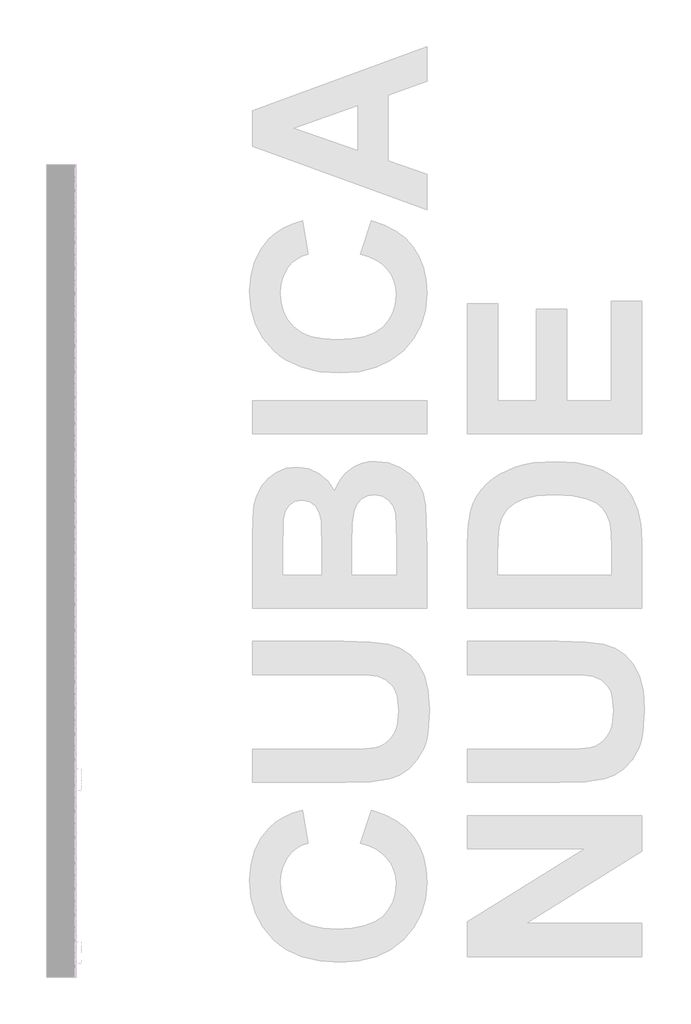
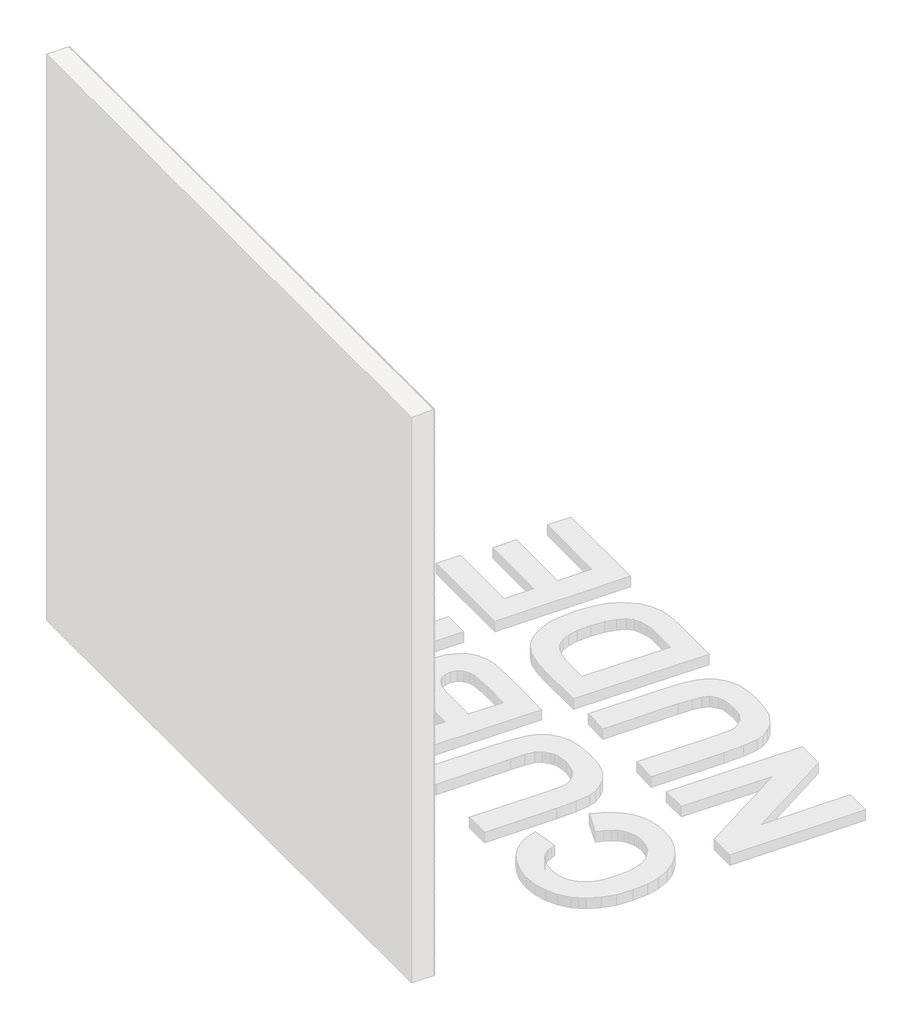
# One storey, part 70 of 121: 145 proxies.
"""IFC4 building model written with IfcOpenShell, lengths in millimetres."""

from ifc_helpers import new_model, si_unit, origin, place, context, project, spatial, transform, mapped, element, save
from components import generic_models_b2b2c5c1, generic_models_9bf73f6f, generic_models_5d175859

model = new_model("IFC4")

# Units and contexts
model_context = context("Model", 3, world=origin())
ifc_project = project(units=[si_unit("LENGTHUNIT", "METRE", prefix="MILLI")], contexts=[model_context])

# Site, building, storey
site = spatial("IfcSite", under=ifc_project)
building = spatial("IfcBuilding", under=site)
storey = spatial("IfcBuildingStorey", under=building, Name="PORTOBELLO - SHOWROOM", Elevation=0.0)

# Proxies
placement = place(None, origin())
generic_models_shape = generic_models_b2b2c5c1(model_context)
element("IfcBuildingElementProxy", 1, Name="PBSHOP - CUBICA NUDE 4,8X8,3 : CUBICA NUDE - POSIÇÃO 01", ObjectType="PBSHOP - CUBICA NUDE 4,8X8,3 : CUBICA NUDE - POSIÇÃO 01", at=placement, inside=storey, context=model_context, shape_type="MappedRepresentation", body=[
    mapped(generic_models_shape, transform((150369.5341846, 8077.0742266, 2170.6574029), x_axis=(0.0, 1.0, 0.0), y_axis=(0.0, 0.0, 1.0), z_axis=(1.0, 0.0, 0.0))),
])
element("IfcBuildingElementProxy", 2, Name="PBSHOP - CUBICA NUDE 4,8X8,3 : CUBICA NUDE - POSIÇÃO 01", ObjectType="PBSHOP - CUBICA NUDE 4,8X8,3 : CUBICA NUDE - POSIÇÃO 01", at=placement, inside=storey, context=model_context, shape_type="MappedRepresentation", body=[
    mapped(generic_models_shape, transform((150369.5341846, 8167.9134958, 2170.6574029), x_axis=(0.0, 1.0, 0.0), y_axis=(0.0, 0.0, 1.0), z_axis=(1.0, 0.0, 0.0))),
])
element("IfcBuildingElementProxy", 3, Name="PBSHOP - CUBICA NUDE 4,8X8,3 : CUBICA NUDE - POSIÇÃO 01", ObjectType="PBSHOP - CUBICA NUDE 4,8X8,3 : CUBICA NUDE - POSIÇÃO 01", at=placement, inside=storey, context=model_context, shape_type="MappedRepresentation", body=[
    mapped(generic_models_shape, transform((150369.5341846, 8258.7527651, 2170.6574029), x_axis=(0.0, 1.0, 0.0), y_axis=(0.0, 0.0, 1.0), z_axis=(1.0, 0.0, 0.0))),
])
element("IfcBuildingElementProxy", 4, Name="PBSHOP - CUBICA NUDE 4,8X8,3 : CUBICA NUDE - POSIÇÃO 01", ObjectType="PBSHOP - CUBICA NUDE 4,8X8,3 : CUBICA NUDE - POSIÇÃO 01", at=placement, inside=storey, context=model_context, shape_type="MappedRepresentation", body=[
    mapped(generic_models_shape, transform((150369.5341846, 8349.5920343, 2170.6574029), x_axis=(0.0, 1.0, 0.0), y_axis=(0.0, 0.0, 1.0), z_axis=(1.0, 0.0, 0.0))),
])
element("IfcBuildingElementProxy", 5, Name="PBSHOP - CUBICA NUDE 4,8X8,3 : CUBICA NUDE - POSIÇÃO 01", ObjectType="PBSHOP - CUBICA NUDE 4,8X8,3 : CUBICA NUDE - POSIÇÃO 01", at=placement, inside=storey, context=model_context, shape_type="MappedRepresentation", body=[
    mapped(generic_models_shape, transform((150369.5341846, 8440.4313036, 2170.6574029), x_axis=(0.0, 1.0, 0.0), y_axis=(0.0, 0.0, 1.0), z_axis=(1.0, 0.0, 0.0))),
])
element("IfcBuildingElementProxy", 6, Name="PBSHOP - CUBICA NUDE 4,8X8,3 : CUBICA NUDE - POSIÇÃO 01", ObjectType="PBSHOP - CUBICA NUDE 4,8X8,3 : CUBICA NUDE - POSIÇÃO 01", at=placement, inside=storey, context=model_context, shape_type="MappedRepresentation", body=[
    mapped(generic_models_shape, transform((150369.5341846, 8531.2705728, 2170.6574029), x_axis=(0.0, 1.0, 0.0), y_axis=(0.0, 0.0, 1.0), z_axis=(1.0, 0.0, 0.0))),
])
element("IfcBuildingElementProxy", 7, Name="PBSHOP - CUBICA NUDE 4,8X8,3 : CUBICA NUDE - POSIÇÃO 01", ObjectType="PBSHOP - CUBICA NUDE 4,8X8,3 : CUBICA NUDE - POSIÇÃO 01", at=placement, inside=storey, context=model_context, shape_type="MappedRepresentation", body=[
    mapped(generic_models_shape, transform((150369.5341846, 8622.109842, 2170.6574029), x_axis=(0.0, 1.0, 0.0), y_axis=(0.0, 0.0, 1.0), z_axis=(1.0, 0.0, 0.0))),
])
element("IfcBuildingElementProxy", 8, Name="PBSHOP - CUBICA NUDE 4,8X8,3 : CUBICA NUDE - POSIÇÃO 01", ObjectType="PBSHOP - CUBICA NUDE 4,8X8,3 : CUBICA NUDE - POSIÇÃO 01", at=placement, inside=storey, context=model_context, shape_type="MappedRepresentation", body=[
    mapped(generic_models_shape, transform((150369.5341846, 8712.9491113, 2170.6574029), x_axis=(0.0, 1.0, 0.0), y_axis=(0.0, 0.0, 1.0), z_axis=(1.0, 0.0, 0.0))),
])
element("IfcBuildingElementProxy", 9, Name="PBSHOP - CUBICA NUDE 4,8X8,3 : CUBICA NUDE - POSIÇÃO 01", ObjectType="PBSHOP - CUBICA NUDE 4,8X8,3 : CUBICA NUDE - POSIÇÃO 01", at=placement, inside=storey, context=model_context, shape_type="MappedRepresentation", body=[
    mapped(generic_models_shape, transform((150369.5341846, 8803.7883805, 2170.6574029), x_axis=(0.0, 1.0, 0.0), y_axis=(0.0, 0.0, 1.0), z_axis=(1.0, 0.0, 0.0))),
])
element("IfcBuildingElementProxy", 10, Name="PBSHOP - CUBICA NUDE 4,8X8,3 : CUBICA NUDE - POSIÇÃO 01", ObjectType="PBSHOP - CUBICA NUDE 4,8X8,3 : CUBICA NUDE - POSIÇÃO 01", at=placement, inside=storey, context=model_context, shape_type="MappedRepresentation", body=[
    mapped(generic_models_shape, transform((150369.5341846, 8894.6276498, 2170.6574029), x_axis=(0.0, 1.0, 0.0), y_axis=(0.0, 0.0, 1.0), z_axis=(1.0, 0.0, 0.0))),
])
element("IfcBuildingElementProxy", 11, Name="PBSHOP - CUBICA NUDE 4,8X8,3 : CUBICA NUDE - POSIÇÃO 01", ObjectType="PBSHOP - CUBICA NUDE 4,8X8,3 : CUBICA NUDE - POSIÇÃO 01", at=placement, inside=storey, context=model_context, shape_type="MappedRepresentation", body=[
    mapped(generic_models_shape, transform((150369.5341846, 8985.466919, 2170.6574029), x_axis=(0.0, 1.0, 0.0), y_axis=(0.0, 0.0, 1.0), z_axis=(1.0, 0.0, 0.0))),
])
element("IfcBuildingElementProxy", 12, Name="PBSHOP - CUBICA NUDE 4,8X8,3 : CUBICA NUDE - POSIÇÃO 01", ObjectType="PBSHOP - CUBICA NUDE 4,8X8,3 : CUBICA NUDE - POSIÇÃO 01", at=placement, inside=storey, context=model_context, shape_type="MappedRepresentation", body=[
    mapped(generic_models_shape, transform((150369.5341846, 8031.654592, 2249.5920413), x_axis=(0.0, 1.0, 0.0), y_axis=(0.0, 0.0, 1.0), z_axis=(1.0, 0.0, 0.0))),
])
element("IfcBuildingElementProxy", 13, Name="PBSHOP - CUBICA NUDE 4,8X8,3 : CUBICA NUDE - POSIÇÃO 01", ObjectType="PBSHOP - CUBICA NUDE 4,8X8,3 : CUBICA NUDE - POSIÇÃO 01", at=placement, inside=storey, context=model_context, shape_type="MappedRepresentation", body=[
    mapped(generic_models_shape, transform((150369.5341846, 8122.4938612, 2249.5920413), x_axis=(0.0, 1.0, 0.0), y_axis=(0.0, 0.0, 1.0), z_axis=(1.0, 0.0, 0.0))),
])
element("IfcBuildingElementProxy", 14, Name="PBSHOP - CUBICA NUDE 4,8X8,3 : CUBICA NUDE - POSIÇÃO 01", ObjectType="PBSHOP - CUBICA NUDE 4,8X8,3 : CUBICA NUDE - POSIÇÃO 01", at=placement, inside=storey, context=model_context, shape_type="MappedRepresentation", body=[
    mapped(generic_models_shape, transform((150369.5341846, 8213.3331304, 2249.5920413), x_axis=(0.0, 1.0, 0.0), y_axis=(0.0, 0.0, 1.0), z_axis=(1.0, 0.0, 0.0))),
])
element("IfcBuildingElementProxy", 15, Name="PBSHOP - CUBICA NUDE 4,8X8,3 : CUBICA NUDE - POSIÇÃO 01", ObjectType="PBSHOP - CUBICA NUDE 4,8X8,3 : CUBICA NUDE - POSIÇÃO 01", at=placement, inside=storey, context=model_context, shape_type="MappedRepresentation", body=[
    mapped(generic_models_shape, transform((150369.5341846, 8304.1723997, 2249.5920413), x_axis=(0.0, 1.0, 0.0), y_axis=(0.0, 0.0, 1.0), z_axis=(1.0, 0.0, 0.0))),
])
element("IfcBuildingElementProxy", 16, Name="PBSHOP - CUBICA NUDE 4,8X8,3 : CUBICA NUDE - POSIÇÃO 01", ObjectType="PBSHOP - CUBICA NUDE 4,8X8,3 : CUBICA NUDE - POSIÇÃO 01", at=placement, inside=storey, context=model_context, shape_type="MappedRepresentation", body=[
    mapped(generic_models_shape, transform((150369.5341846, 8395.0116689, 2249.5920413), x_axis=(0.0, 1.0, 0.0), y_axis=(0.0, 0.0, 1.0), z_axis=(1.0, 0.0, 0.0))),
])
element("IfcBuildingElementProxy", 17, Name="PBSHOP - CUBICA NUDE 4,8X8,3 : CUBICA NUDE - POSIÇÃO 01", ObjectType="PBSHOP - CUBICA NUDE 4,8X8,3 : CUBICA NUDE - POSIÇÃO 01", at=placement, inside=storey, context=model_context, shape_type="MappedRepresentation", body=[
    mapped(generic_models_shape, transform((150369.5341846, 8485.8509382, 2249.5920413), x_axis=(0.0, 1.0, 0.0), y_axis=(0.0, 0.0, 1.0), z_axis=(1.0, 0.0, 0.0))),
])
element("IfcBuildingElementProxy", 18, Name="PBSHOP - CUBICA NUDE 4,8X8,3 : CUBICA NUDE - POSIÇÃO 01", ObjectType="PBSHOP - CUBICA NUDE 4,8X8,3 : CUBICA NUDE - POSIÇÃO 01", at=placement, inside=storey, context=model_context, shape_type="MappedRepresentation", body=[
    mapped(generic_models_shape, transform((150369.5341846, 8576.6902074, 2249.5920413), x_axis=(0.0, 1.0, 0.0), y_axis=(0.0, 0.0, 1.0), z_axis=(1.0, 0.0, 0.0))),
])
element("IfcBuildingElementProxy", 19, Name="PBSHOP - CUBICA NUDE 4,8X8,3 : CUBICA NUDE - POSIÇÃO 01", ObjectType="PBSHOP - CUBICA NUDE 4,8X8,3 : CUBICA NUDE - POSIÇÃO 01", at=placement, inside=storey, context=model_context, shape_type="MappedRepresentation", body=[
    mapped(generic_models_shape, transform((150369.5341846, 8667.5294767, 2249.5920413), x_axis=(0.0, 1.0, 0.0), y_axis=(0.0, 0.0, 1.0), z_axis=(1.0, 0.0, 0.0))),
])
element("IfcBuildingElementProxy", 20, Name="PBSHOP - CUBICA NUDE 4,8X8,3 : CUBICA NUDE - POSIÇÃO 01", ObjectType="PBSHOP - CUBICA NUDE 4,8X8,3 : CUBICA NUDE - POSIÇÃO 01", at=placement, inside=storey, context=model_context, shape_type="MappedRepresentation", body=[
    mapped(generic_models_shape, transform((150369.5341846, 8758.3687459, 2249.5920413), x_axis=(0.0, 1.0, 0.0), y_axis=(0.0, 0.0, 1.0), z_axis=(1.0, 0.0, 0.0))),
])
element("IfcBuildingElementProxy", 21, Name="PBSHOP - CUBICA NUDE 4,8X8,3 : CUBICA NUDE - POSIÇÃO 01", ObjectType="PBSHOP - CUBICA NUDE 4,8X8,3 : CUBICA NUDE - POSIÇÃO 01", at=placement, inside=storey, context=model_context, shape_type="MappedRepresentation", body=[
    mapped(generic_models_shape, transform((150369.5341846, 8849.2080152, 2249.5920413), x_axis=(0.0, 1.0, 0.0), y_axis=(0.0, 0.0, 1.0), z_axis=(1.0, 0.0, 0.0))),
])
element("IfcBuildingElementProxy", 22, Name="PBSHOP - CUBICA NUDE 4,8X8,3 : CUBICA NUDE - POSIÇÃO 01", ObjectType="PBSHOP - CUBICA NUDE 4,8X8,3 : CUBICA NUDE - POSIÇÃO 01", at=placement, inside=storey, context=model_context, shape_type="MappedRepresentation", body=[
    mapped(generic_models_shape, transform((150369.5341846, 8940.0472844, 2249.5920413), x_axis=(0.0, 1.0, 0.0), y_axis=(0.0, 0.0, 1.0), z_axis=(1.0, 0.0, 0.0))),
])
element("IfcBuildingElementProxy", 23, Name="PBSHOP - CUBICA NUDE 4,8X8,3 : CUBICA NUDE - POSIÇÃO 01", ObjectType="PBSHOP - CUBICA NUDE 4,8X8,3 : CUBICA NUDE - POSIÇÃO 01", at=placement, inside=storey, context=model_context, shape_type="MappedRepresentation", body=[
    mapped(generic_models_shape, transform((150369.5341846, 8077.0742266, 2328.5266797), x_axis=(0.0, 1.0, 0.0), y_axis=(0.0, 0.0, 1.0), z_axis=(1.0, 0.0, 0.0))),
])
element("IfcBuildingElementProxy", 24, Name="PBSHOP - CUBICA NUDE 4,8X8,3 : CUBICA NUDE - POSIÇÃO 01", ObjectType="PBSHOP - CUBICA NUDE 4,8X8,3 : CUBICA NUDE - POSIÇÃO 01", at=placement, inside=storey, context=model_context, shape_type="MappedRepresentation", body=[
    mapped(generic_models_shape, transform((150369.5341846, 8167.9134958, 2328.5266797), x_axis=(0.0, 1.0, 0.0), y_axis=(0.0, 0.0, 1.0), z_axis=(1.0, 0.0, 0.0))),
])
element("IfcBuildingElementProxy", 25, Name="PBSHOP - CUBICA NUDE 4,8X8,3 : CUBICA NUDE - POSIÇÃO 01", ObjectType="PBSHOP - CUBICA NUDE 4,8X8,3 : CUBICA NUDE - POSIÇÃO 01", at=placement, inside=storey, context=model_context, shape_type="MappedRepresentation", body=[
    mapped(generic_models_shape, transform((150369.5341846, 8258.7527651, 2328.5266797), x_axis=(0.0, 1.0, 0.0), y_axis=(0.0, 0.0, 1.0), z_axis=(1.0, 0.0, 0.0))),
])
element("IfcBuildingElementProxy", 26, Name="PBSHOP - CUBICA NUDE 4,8X8,3 : CUBICA NUDE - POSIÇÃO 01", ObjectType="PBSHOP - CUBICA NUDE 4,8X8,3 : CUBICA NUDE - POSIÇÃO 01", at=placement, inside=storey, context=model_context, shape_type="MappedRepresentation", body=[
    mapped(generic_models_shape, transform((150369.5341846, 8349.5920343, 2328.5266797), x_axis=(0.0, 1.0, 0.0), y_axis=(0.0, 0.0, 1.0), z_axis=(1.0, 0.0, 0.0))),
])
element("IfcBuildingElementProxy", 27, Name="PBSHOP - CUBICA NUDE 4,8X8,3 : CUBICA NUDE - POSIÇÃO 01", ObjectType="PBSHOP - CUBICA NUDE 4,8X8,3 : CUBICA NUDE - POSIÇÃO 01", at=placement, inside=storey, context=model_context, shape_type="MappedRepresentation", body=[
    mapped(generic_models_shape, transform((150369.5341846, 8440.4313036, 2328.5266797), x_axis=(0.0, 1.0, 0.0), y_axis=(0.0, 0.0, 1.0), z_axis=(1.0, 0.0, 0.0))),
])
element("IfcBuildingElementProxy", 28, Name="PBSHOP - CUBICA NUDE 4,8X8,3 : CUBICA NUDE - POSIÇÃO 01", ObjectType="PBSHOP - CUBICA NUDE 4,8X8,3 : CUBICA NUDE - POSIÇÃO 01", at=placement, inside=storey, context=model_context, shape_type="MappedRepresentation", body=[
    mapped(generic_models_shape, transform((150369.5341846, 8531.2705728, 2328.5266797), x_axis=(0.0, 1.0, 0.0), y_axis=(0.0, 0.0, 1.0), z_axis=(1.0, 0.0, 0.0))),
])
element("IfcBuildingElementProxy", 29, Name="PBSHOP - CUBICA NUDE 4,8X8,3 : CUBICA NUDE - POSIÇÃO 01", ObjectType="PBSHOP - CUBICA NUDE 4,8X8,3 : CUBICA NUDE - POSIÇÃO 01", at=placement, inside=storey, context=model_context, shape_type="MappedRepresentation", body=[
    mapped(generic_models_shape, transform((150369.5341846, 8622.109842, 2328.5266797), x_axis=(0.0, 1.0, 0.0), y_axis=(0.0, 0.0, 1.0), z_axis=(1.0, 0.0, 0.0))),
])
element("IfcBuildingElementProxy", 30, Name="PBSHOP - CUBICA NUDE 4,8X8,3 : CUBICA NUDE - POSIÇÃO 01", ObjectType="PBSHOP - CUBICA NUDE 4,8X8,3 : CUBICA NUDE - POSIÇÃO 01", at=placement, inside=storey, context=model_context, shape_type="MappedRepresentation", body=[
    mapped(generic_models_shape, transform((150369.5341846, 8712.9491113, 2328.5266797), x_axis=(0.0, 1.0, 0.0), y_axis=(0.0, 0.0, 1.0), z_axis=(1.0, 0.0, 0.0))),
])
element("IfcBuildingElementProxy", 31, Name="PBSHOP - CUBICA NUDE 4,8X8,3 : CUBICA NUDE - POSIÇÃO 01", ObjectType="PBSHOP - CUBICA NUDE 4,8X8,3 : CUBICA NUDE - POSIÇÃO 01", at=placement, inside=storey, context=model_context, shape_type="MappedRepresentation", body=[
    mapped(generic_models_shape, transform((150369.5341846, 8803.7883805, 2328.5266797), x_axis=(0.0, 1.0, 0.0), y_axis=(0.0, 0.0, 1.0), z_axis=(1.0, 0.0, 0.0))),
])
element("IfcBuildingElementProxy", 32, Name="PBSHOP - CUBICA NUDE 4,8X8,3 : CUBICA NUDE - POSIÇÃO 01", ObjectType="PBSHOP - CUBICA NUDE 4,8X8,3 : CUBICA NUDE - POSIÇÃO 01", at=placement, inside=storey, context=model_context, shape_type="MappedRepresentation", body=[
    mapped(generic_models_shape, transform((150369.5341846, 8894.6276498, 2328.5266797), x_axis=(0.0, 1.0, 0.0), y_axis=(0.0, 0.0, 1.0), z_axis=(1.0, 0.0, 0.0))),
])
element("IfcBuildingElementProxy", 33, Name="PBSHOP - CUBICA NUDE 4,8X8,3 : CUBICA NUDE - POSIÇÃO 01", ObjectType="PBSHOP - CUBICA NUDE 4,8X8,3 : CUBICA NUDE - POSIÇÃO 01", at=placement, inside=storey, context=model_context, shape_type="MappedRepresentation", body=[
    mapped(generic_models_shape, transform((150369.5341846, 8985.466919, 2328.5266797), x_axis=(0.0, 1.0, 0.0), y_axis=(0.0, 0.0, 1.0), z_axis=(1.0, 0.0, 0.0))),
])
element("IfcBuildingElementProxy", 34, Name="PBSHOP - CUBICA NUDE 4,8X8,3 : CUBICA NUDE - POSIÇÃO 01", ObjectType="PBSHOP - CUBICA NUDE 4,8X8,3 : CUBICA NUDE - POSIÇÃO 01", at=placement, inside=storey, context=model_context, shape_type="MappedRepresentation", body=[
    mapped(generic_models_shape, transform((150369.5341846, 8031.654592, 2407.461318), x_axis=(0.0, 1.0, 0.0), y_axis=(0.0, 0.0, 1.0), z_axis=(1.0, 0.0, 0.0))),
])
element("IfcBuildingElementProxy", 35, Name="PBSHOP - CUBICA NUDE 4,8X8,3 : CUBICA NUDE - POSIÇÃO 01", ObjectType="PBSHOP - CUBICA NUDE 4,8X8,3 : CUBICA NUDE - POSIÇÃO 01", at=placement, inside=storey, context=model_context, shape_type="MappedRepresentation", body=[
    mapped(generic_models_shape, transform((150369.5341846, 8122.4938612, 2407.461318), x_axis=(0.0, 1.0, 0.0), y_axis=(0.0, 0.0, 1.0), z_axis=(1.0, 0.0, 0.0))),
])
element("IfcBuildingElementProxy", 36, Name="PBSHOP - CUBICA NUDE 4,8X8,3 : CUBICA NUDE - POSIÇÃO 01", ObjectType="PBSHOP - CUBICA NUDE 4,8X8,3 : CUBICA NUDE - POSIÇÃO 01", at=placement, inside=storey, context=model_context, shape_type="MappedRepresentation", body=[
    mapped(generic_models_shape, transform((150369.5341846, 8213.3331304, 2407.461318), x_axis=(0.0, 1.0, 0.0), y_axis=(0.0, 0.0, 1.0), z_axis=(1.0, 0.0, 0.0))),
])
element("IfcBuildingElementProxy", 37, Name="PBSHOP - CUBICA NUDE 4,8X8,3 : CUBICA NUDE - POSIÇÃO 01", ObjectType="PBSHOP - CUBICA NUDE 4,8X8,3 : CUBICA NUDE - POSIÇÃO 01", at=placement, inside=storey, context=model_context, shape_type="MappedRepresentation", body=[
    mapped(generic_models_shape, transform((150369.5341846, 8304.1723997, 2407.461318), x_axis=(0.0, 1.0, 0.0), y_axis=(0.0, 0.0, 1.0), z_axis=(1.0, 0.0, 0.0))),
])
element("IfcBuildingElementProxy", 38, Name="PBSHOP - CUBICA NUDE 4,8X8,3 : CUBICA NUDE - POSIÇÃO 01", ObjectType="PBSHOP - CUBICA NUDE 4,8X8,3 : CUBICA NUDE - POSIÇÃO 01", at=placement, inside=storey, context=model_context, shape_type="MappedRepresentation", body=[
    mapped(generic_models_shape, transform((150369.5341846, 8395.0116689, 2407.461318), x_axis=(0.0, 1.0, 0.0), y_axis=(0.0, 0.0, 1.0), z_axis=(1.0, 0.0, 0.0))),
])
element("IfcBuildingElementProxy", 39, Name="PBSHOP - CUBICA NUDE 4,8X8,3 : CUBICA NUDE - POSIÇÃO 01", ObjectType="PBSHOP - CUBICA NUDE 4,8X8,3 : CUBICA NUDE - POSIÇÃO 01", at=placement, inside=storey, context=model_context, shape_type="MappedRepresentation", body=[
    mapped(generic_models_shape, transform((150369.5341846, 8485.8509382, 2407.461318), x_axis=(0.0, 1.0, 0.0), y_axis=(0.0, 0.0, 1.0), z_axis=(1.0, 0.0, 0.0))),
])
element("IfcBuildingElementProxy", 40, Name="PBSHOP - CUBICA NUDE 4,8X8,3 : CUBICA NUDE - POSIÇÃO 01", ObjectType="PBSHOP - CUBICA NUDE 4,8X8,3 : CUBICA NUDE - POSIÇÃO 01", at=placement, inside=storey, context=model_context, shape_type="MappedRepresentation", body=[
    mapped(generic_models_shape, transform((150369.5341846, 8576.6902074, 2407.461318), x_axis=(0.0, 1.0, 0.0), y_axis=(0.0, 0.0, 1.0), z_axis=(1.0, 0.0, 0.0))),
])
element("IfcBuildingElementProxy", 41, Name="PBSHOP - CUBICA NUDE 4,8X8,3 : CUBICA NUDE - POSIÇÃO 01", ObjectType="PBSHOP - CUBICA NUDE 4,8X8,3 : CUBICA NUDE - POSIÇÃO 01", at=placement, inside=storey, context=model_context, shape_type="MappedRepresentation", body=[
    mapped(generic_models_shape, transform((150369.5341846, 8667.5294767, 2407.461318), x_axis=(0.0, 1.0, 0.0), y_axis=(0.0, 0.0, 1.0), z_axis=(1.0, 0.0, 0.0))),
])
element("IfcBuildingElementProxy", 42, Name="PBSHOP - CUBICA NUDE 4,8X8,3 : CUBICA NUDE - POSIÇÃO 01", ObjectType="PBSHOP - CUBICA NUDE 4,8X8,3 : CUBICA NUDE - POSIÇÃO 01", at=placement, inside=storey, context=model_context, shape_type="MappedRepresentation", body=[
    mapped(generic_models_shape, transform((150369.5341846, 8758.3687459, 2407.461318), x_axis=(0.0, 1.0, 0.0), y_axis=(0.0, 0.0, 1.0), z_axis=(1.0, 0.0, 0.0))),
])
element("IfcBuildingElementProxy", 43, Name="PBSHOP - CUBICA NUDE 4,8X8,3 : CUBICA NUDE - POSIÇÃO 01", ObjectType="PBSHOP - CUBICA NUDE 4,8X8,3 : CUBICA NUDE - POSIÇÃO 01", at=placement, inside=storey, context=model_context, shape_type="MappedRepresentation", body=[
    mapped(generic_models_shape, transform((150369.5341846, 8849.2080152, 2407.461318), x_axis=(0.0, 1.0, 0.0), y_axis=(0.0, 0.0, 1.0), z_axis=(1.0, 0.0, 0.0))),
])
element("IfcBuildingElementProxy", 44, Name="PBSHOP - CUBICA NUDE 4,8X8,3 : CUBICA NUDE - POSIÇÃO 01", ObjectType="PBSHOP - CUBICA NUDE 4,8X8,3 : CUBICA NUDE - POSIÇÃO 01", at=placement, inside=storey, context=model_context, shape_type="MappedRepresentation", body=[
    mapped(generic_models_shape, transform((150369.5341846, 8940.0472844, 2407.461318), x_axis=(0.0, 1.0, 0.0), y_axis=(0.0, 0.0, 1.0), z_axis=(1.0, 0.0, 0.0))),
])
element("IfcBuildingElementProxy", 45, Name="PBSHOP - CUBICA NUDE 4,8X8,3 : CUBICA NUDE - POSIÇÃO 01", ObjectType="PBSHOP - CUBICA NUDE 4,8X8,3 : CUBICA NUDE - POSIÇÃO 01", at=placement, inside=storey, context=model_context, shape_type="MappedRepresentation", body=[
    mapped(generic_models_shape, transform((150369.5341846, 8077.0742266, 2486.3959564), x_axis=(0.0, 1.0, 0.0), y_axis=(0.0, 0.0, 1.0), z_axis=(1.0, 0.0, 0.0))),
])
element("IfcBuildingElementProxy", 46, Name="PBSHOP - CUBICA NUDE 4,8X8,3 : CUBICA NUDE - POSIÇÃO 01", ObjectType="PBSHOP - CUBICA NUDE 4,8X8,3 : CUBICA NUDE - POSIÇÃO 01", at=placement, inside=storey, context=model_context, shape_type="MappedRepresentation", body=[
    mapped(generic_models_shape, transform((150369.5341846, 8167.9134958, 2486.3959564), x_axis=(0.0, 1.0, 0.0), y_axis=(0.0, 0.0, 1.0), z_axis=(1.0, 0.0, 0.0))),
])
element("IfcBuildingElementProxy", 47, Name="PBSHOP - CUBICA NUDE 4,8X8,3 : CUBICA NUDE - POSIÇÃO 01", ObjectType="PBSHOP - CUBICA NUDE 4,8X8,3 : CUBICA NUDE - POSIÇÃO 01", at=placement, inside=storey, context=model_context, shape_type="MappedRepresentation", body=[
    mapped(generic_models_shape, transform((150369.5341846, 8258.7527651, 2486.3959564), x_axis=(0.0, 1.0, 0.0), y_axis=(0.0, 0.0, 1.0), z_axis=(1.0, 0.0, 0.0))),
])
element("IfcBuildingElementProxy", 48, Name="PBSHOP - CUBICA NUDE 4,8X8,3 : CUBICA NUDE - POSIÇÃO 01", ObjectType="PBSHOP - CUBICA NUDE 4,8X8,3 : CUBICA NUDE - POSIÇÃO 01", at=placement, inside=storey, context=model_context, shape_type="MappedRepresentation", body=[
    mapped(generic_models_shape, transform((150369.5341846, 8349.5920343, 2486.3959564), x_axis=(0.0, 1.0, 0.0), y_axis=(0.0, 0.0, 1.0), z_axis=(1.0, 0.0, 0.0))),
])
element("IfcBuildingElementProxy", 49, Name="PBSHOP - CUBICA NUDE 4,8X8,3 : CUBICA NUDE - POSIÇÃO 01", ObjectType="PBSHOP - CUBICA NUDE 4,8X8,3 : CUBICA NUDE - POSIÇÃO 01", at=placement, inside=storey, context=model_context, shape_type="MappedRepresentation", body=[
    mapped(generic_models_shape, transform((150369.5341846, 8440.4313036, 2486.3959564), x_axis=(0.0, 1.0, 0.0), y_axis=(0.0, 0.0, 1.0), z_axis=(1.0, 0.0, 0.0))),
])
element("IfcBuildingElementProxy", 50, Name="PBSHOP - CUBICA NUDE 4,8X8,3 : CUBICA NUDE - POSIÇÃO 01", ObjectType="PBSHOP - CUBICA NUDE 4,8X8,3 : CUBICA NUDE - POSIÇÃO 01", at=placement, inside=storey, context=model_context, shape_type="MappedRepresentation", body=[
    mapped(generic_models_shape, transform((150369.5341846, 8531.2705728, 2486.3959564), x_axis=(0.0, 1.0, 0.0), y_axis=(0.0, 0.0, 1.0), z_axis=(1.0, 0.0, 0.0))),
])
generic_models_2_shape = generic_models_9bf73f6f(model_context)
element("IfcBuildingElementProxy", 51, Name="PBSHOP - CUBICA NUDE 4,8X8,3 : CUBICA NUDE - POSIÇÃO 03", ObjectType="PBSHOP - CUBICA NUDE 4,8X8,3 : CUBICA NUDE - POSIÇÃO 03", at=placement, inside=storey, context=model_context, shape_type="MappedRepresentation", body=[
    mapped(generic_models_2_shape, transform((150369.5341846, 8917.3396263, 2052.2142349), x_axis=(0.0, 1.0, 0.0), y_axis=(0.0, 0.0, 1.0), z_axis=(1.0, 0.0, 0.0))),
])
element("IfcBuildingElementProxy", 52, Name="PBSHOP - CUBICA NUDE 4,8X8,3 : CUBICA NUDE - POSIÇÃO 03", ObjectType="PBSHOP - CUBICA NUDE 4,8X8,3 : CUBICA NUDE - POSIÇÃO 03", at=placement, inside=storey, context=model_context, shape_type="MappedRepresentation", body=[
    mapped(generic_models_2_shape, transform((150369.5341846, 8054.3665684, 2131.1488733), x_axis=(0.0, 1.0, 0.0), y_axis=(0.0, 0.0, 1.0), z_axis=(1.0, 0.0, 0.0))),
])
element("IfcBuildingElementProxy", 53, Name="PBSHOP - CUBICA NUDE 4,8X8,3 : CUBICA NUDE - POSIÇÃO 03", ObjectType="PBSHOP - CUBICA NUDE 4,8X8,3 : CUBICA NUDE - POSIÇÃO 03", at=placement, inside=storey, context=model_context, shape_type="MappedRepresentation", body=[
    mapped(generic_models_2_shape, transform((150369.5341846, 8145.2058377, 2131.1488733), x_axis=(0.0, 1.0, 0.0), y_axis=(0.0, 0.0, 1.0), z_axis=(1.0, 0.0, 0.0))),
])
element("IfcBuildingElementProxy", 54, Name="PBSHOP - CUBICA NUDE 4,8X8,3 : CUBICA NUDE - POSIÇÃO 03", ObjectType="PBSHOP - CUBICA NUDE 4,8X8,3 : CUBICA NUDE - POSIÇÃO 03", at=placement, inside=storey, context=model_context, shape_type="MappedRepresentation", body=[
    mapped(generic_models_2_shape, transform((150369.5341846, 8236.0451069, 2131.1488733), x_axis=(0.0, 1.0, 0.0), y_axis=(0.0, 0.0, 1.0), z_axis=(1.0, 0.0, 0.0))),
])
element("IfcBuildingElementProxy", 55, Name="PBSHOP - CUBICA NUDE 4,8X8,3 : CUBICA NUDE - POSIÇÃO 03", ObjectType="PBSHOP - CUBICA NUDE 4,8X8,3 : CUBICA NUDE - POSIÇÃO 03", at=placement, inside=storey, context=model_context, shape_type="MappedRepresentation", body=[
    mapped(generic_models_2_shape, transform((150369.5341846, 8326.8843762, 2131.1488733), x_axis=(0.0, 1.0, 0.0), y_axis=(0.0, 0.0, 1.0), z_axis=(1.0, 0.0, 0.0))),
])
element("IfcBuildingElementProxy", 56, Name="PBSHOP - CUBICA NUDE 4,8X8,3 : CUBICA NUDE - POSIÇÃO 03", ObjectType="PBSHOP - CUBICA NUDE 4,8X8,3 : CUBICA NUDE - POSIÇÃO 03", at=placement, inside=storey, context=model_context, shape_type="MappedRepresentation", body=[
    mapped(generic_models_2_shape, transform((150369.5341846, 8417.7236454, 2131.1488733), x_axis=(0.0, 1.0, 0.0), y_axis=(0.0, 0.0, 1.0), z_axis=(1.0, 0.0, 0.0))),
])
element("IfcBuildingElementProxy", 57, Name="PBSHOP - CUBICA NUDE 4,8X8,3 : CUBICA NUDE - POSIÇÃO 03", ObjectType="PBSHOP - CUBICA NUDE 4,8X8,3 : CUBICA NUDE - POSIÇÃO 03", at=placement, inside=storey, context=model_context, shape_type="MappedRepresentation", body=[
    mapped(generic_models_2_shape, transform((150369.5341846, 8508.5629147, 2131.1488733), x_axis=(0.0, 1.0, 0.0), y_axis=(0.0, 0.0, 1.0), z_axis=(1.0, 0.0, 0.0))),
])
element("IfcBuildingElementProxy", 58, Name="PBSHOP - CUBICA NUDE 4,8X8,3 : CUBICA NUDE - POSIÇÃO 03", ObjectType="PBSHOP - CUBICA NUDE 4,8X8,3 : CUBICA NUDE - POSIÇÃO 03", at=placement, inside=storey, context=model_context, shape_type="MappedRepresentation", body=[
    mapped(generic_models_2_shape, transform((150369.5341846, 8599.4021839, 2131.1488733), x_axis=(0.0, 1.0, 0.0), y_axis=(0.0, 0.0, 1.0), z_axis=(1.0, 0.0, 0.0))),
])
element("IfcBuildingElementProxy", 59, Name="PBSHOP - CUBICA NUDE 4,8X8,3 : CUBICA NUDE - POSIÇÃO 03", ObjectType="PBSHOP - CUBICA NUDE 4,8X8,3 : CUBICA NUDE - POSIÇÃO 03", at=placement, inside=storey, context=model_context, shape_type="MappedRepresentation", body=[
    mapped(generic_models_2_shape, transform((150369.5341846, 8690.2414531, 2131.1488733), x_axis=(0.0, 1.0, 0.0), y_axis=(0.0, 0.0, 1.0), z_axis=(1.0, 0.0, 0.0))),
])
element("IfcBuildingElementProxy", 60, Name="PBSHOP - CUBICA NUDE 4,8X8,3 : CUBICA NUDE - POSIÇÃO 03", ObjectType="PBSHOP - CUBICA NUDE 4,8X8,3 : CUBICA NUDE - POSIÇÃO 03", at=placement, inside=storey, context=model_context, shape_type="MappedRepresentation", body=[
    mapped(generic_models_2_shape, transform((150369.5341846, 8781.0807224, 2131.1488733), x_axis=(0.0, 1.0, 0.0), y_axis=(0.0, 0.0, 1.0), z_axis=(1.0, 0.0, 0.0))),
])
element("IfcBuildingElementProxy", 61, Name="PBSHOP - CUBICA NUDE 4,8X8,3 : CUBICA NUDE - POSIÇÃO 03", ObjectType="PBSHOP - CUBICA NUDE 4,8X8,3 : CUBICA NUDE - POSIÇÃO 03", at=placement, inside=storey, context=model_context, shape_type="MappedRepresentation", body=[
    mapped(generic_models_2_shape, transform((150369.5341846, 8871.9199916, 2131.1488733), x_axis=(0.0, 1.0, 0.0), y_axis=(0.0, 0.0, 1.0), z_axis=(1.0, 0.0, 0.0))),
])
element("IfcBuildingElementProxy", 62, Name="PBSHOP - CUBICA NUDE 4,8X8,3 : CUBICA NUDE - POSIÇÃO 03", ObjectType="PBSHOP - CUBICA NUDE 4,8X8,3 : CUBICA NUDE - POSIÇÃO 03", at=placement, inside=storey, context=model_context, shape_type="MappedRepresentation", body=[
    mapped(generic_models_2_shape, transform((150369.5341846, 8962.7592609, 2131.1488733), x_axis=(0.0, 1.0, 0.0), y_axis=(0.0, 0.0, 1.0), z_axis=(1.0, 0.0, 0.0))),
])
element("IfcBuildingElementProxy", 63, Name="PBSHOP - CUBICA NUDE 4,8X8,3 : CUBICA NUDE - POSIÇÃO 03", ObjectType="PBSHOP - CUBICA NUDE 4,8X8,3 : CUBICA NUDE - POSIÇÃO 03", at=placement, inside=storey, context=model_context, shape_type="MappedRepresentation", body=[
    mapped(generic_models_2_shape, transform((150369.5341846, 8008.9469338, 2210.0835117), x_axis=(0.0, 1.0, 0.0), y_axis=(0.0, 0.0, 1.0), z_axis=(1.0, 0.0, 0.0))),
])
element("IfcBuildingElementProxy", 64, Name="PBSHOP - CUBICA NUDE 4,8X8,3 : CUBICA NUDE - POSIÇÃO 03", ObjectType="PBSHOP - CUBICA NUDE 4,8X8,3 : CUBICA NUDE - POSIÇÃO 03", at=placement, inside=storey, context=model_context, shape_type="MappedRepresentation", body=[
    mapped(generic_models_2_shape, transform((150369.5341846, 8099.7862031, 2210.0835117), x_axis=(0.0, 1.0, 0.0), y_axis=(0.0, 0.0, 1.0), z_axis=(1.0, 0.0, 0.0))),
])
element("IfcBuildingElementProxy", 65, Name="PBSHOP - CUBICA NUDE 4,8X8,3 : CUBICA NUDE - POSIÇÃO 03", ObjectType="PBSHOP - CUBICA NUDE 4,8X8,3 : CUBICA NUDE - POSIÇÃO 03", at=placement, inside=storey, context=model_context, shape_type="MappedRepresentation", body=[
    mapped(generic_models_2_shape, transform((150369.5341846, 8190.6254723, 2210.0835117), x_axis=(0.0, 1.0, 0.0), y_axis=(0.0, 0.0, 1.0), z_axis=(1.0, 0.0, 0.0))),
])
element("IfcBuildingElementProxy", 66, Name="PBSHOP - CUBICA NUDE 4,8X8,3 : CUBICA NUDE - POSIÇÃO 03", ObjectType="PBSHOP - CUBICA NUDE 4,8X8,3 : CUBICA NUDE - POSIÇÃO 03", at=placement, inside=storey, context=model_context, shape_type="MappedRepresentation", body=[
    mapped(generic_models_2_shape, transform((150369.5341846, 8281.4647415, 2210.0835117), x_axis=(0.0, 1.0, 0.0), y_axis=(0.0, 0.0, 1.0), z_axis=(1.0, 0.0, 0.0))),
])
element("IfcBuildingElementProxy", 67, Name="PBSHOP - CUBICA NUDE 4,8X8,3 : CUBICA NUDE - POSIÇÃO 03", ObjectType="PBSHOP - CUBICA NUDE 4,8X8,3 : CUBICA NUDE - POSIÇÃO 03", at=placement, inside=storey, context=model_context, shape_type="MappedRepresentation", body=[
    mapped(generic_models_2_shape, transform((150369.5341846, 8372.3040108, 2210.0835117), x_axis=(0.0, 1.0, 0.0), y_axis=(0.0, 0.0, 1.0), z_axis=(1.0, 0.0, 0.0))),
])
element("IfcBuildingElementProxy", 68, Name="PBSHOP - CUBICA NUDE 4,8X8,3 : CUBICA NUDE - POSIÇÃO 03", ObjectType="PBSHOP - CUBICA NUDE 4,8X8,3 : CUBICA NUDE - POSIÇÃO 03", at=placement, inside=storey, context=model_context, shape_type="MappedRepresentation", body=[
    mapped(generic_models_2_shape, transform((150369.5341846, 8463.14328, 2210.0835117), x_axis=(0.0, 1.0, 0.0), y_axis=(0.0, 0.0, 1.0), z_axis=(1.0, 0.0, 0.0))),
])
element("IfcBuildingElementProxy", 69, Name="PBSHOP - CUBICA NUDE 4,8X8,3 : CUBICA NUDE - POSIÇÃO 03", ObjectType="PBSHOP - CUBICA NUDE 4,8X8,3 : CUBICA NUDE - POSIÇÃO 03", at=placement, inside=storey, context=model_context, shape_type="MappedRepresentation", body=[
    mapped(generic_models_2_shape, transform((150369.5341846, 8553.9825493, 2210.0835117), x_axis=(0.0, 1.0, 0.0), y_axis=(0.0, 0.0, 1.0), z_axis=(1.0, 0.0, 0.0))),
])
element("IfcBuildingElementProxy", 70, Name="PBSHOP - CUBICA NUDE 4,8X8,3 : CUBICA NUDE - POSIÇÃO 03", ObjectType="PBSHOP - CUBICA NUDE 4,8X8,3 : CUBICA NUDE - POSIÇÃO 03", at=placement, inside=storey, context=model_context, shape_type="MappedRepresentation", body=[
    mapped(generic_models_2_shape, transform((150369.5341846, 8644.8218185, 2210.0835117), x_axis=(0.0, 1.0, 0.0), y_axis=(0.0, 0.0, 1.0), z_axis=(1.0, 0.0, 0.0))),
])
element("IfcBuildingElementProxy", 71, Name="PBSHOP - CUBICA NUDE 4,8X8,3 : CUBICA NUDE - POSIÇÃO 03", ObjectType="PBSHOP - CUBICA NUDE 4,8X8,3 : CUBICA NUDE - POSIÇÃO 03", at=placement, inside=storey, context=model_context, shape_type="MappedRepresentation", body=[
    mapped(generic_models_2_shape, transform((150369.5341846, 8735.6610878, 2210.0835117), x_axis=(0.0, 1.0, 0.0), y_axis=(0.0, 0.0, 1.0), z_axis=(1.0, 0.0, 0.0))),
])
element("IfcBuildingElementProxy", 72, Name="PBSHOP - CUBICA NUDE 4,8X8,3 : CUBICA NUDE - POSIÇÃO 03", ObjectType="PBSHOP - CUBICA NUDE 4,8X8,3 : CUBICA NUDE - POSIÇÃO 03", at=placement, inside=storey, context=model_context, shape_type="MappedRepresentation", body=[
    mapped(generic_models_2_shape, transform((150369.5341846, 8826.500357, 2210.0835117), x_axis=(0.0, 1.0, 0.0), y_axis=(0.0, 0.0, 1.0), z_axis=(1.0, 0.0, 0.0))),
])
element("IfcBuildingElementProxy", 73, Name="PBSHOP - CUBICA NUDE 4,8X8,3 : CUBICA NUDE - POSIÇÃO 03", ObjectType="PBSHOP - CUBICA NUDE 4,8X8,3 : CUBICA NUDE - POSIÇÃO 03", at=placement, inside=storey, context=model_context, shape_type="MappedRepresentation", body=[
    mapped(generic_models_2_shape, transform((150369.5341846, 8917.3396263, 2210.0835117), x_axis=(0.0, 1.0, 0.0), y_axis=(0.0, 0.0, 1.0), z_axis=(1.0, 0.0, 0.0))),
])
element("IfcBuildingElementProxy", 74, Name="PBSHOP - CUBICA NUDE 4,8X8,3 : CUBICA NUDE - POSIÇÃO 03", ObjectType="PBSHOP - CUBICA NUDE 4,8X8,3 : CUBICA NUDE - POSIÇÃO 03", at=placement, inside=storey, context=model_context, shape_type="MappedRepresentation", body=[
    mapped(generic_models_2_shape, transform((150369.5341846, 8054.3665684, 2289.0181501), x_axis=(0.0, 1.0, 0.0), y_axis=(0.0, 0.0, 1.0), z_axis=(1.0, 0.0, 0.0))),
])
element("IfcBuildingElementProxy", 75, Name="PBSHOP - CUBICA NUDE 4,8X8,3 : CUBICA NUDE - POSIÇÃO 03", ObjectType="PBSHOP - CUBICA NUDE 4,8X8,3 : CUBICA NUDE - POSIÇÃO 03", at=placement, inside=storey, context=model_context, shape_type="MappedRepresentation", body=[
    mapped(generic_models_2_shape, transform((150369.5341846, 8145.2058377, 2289.0181501), x_axis=(0.0, 1.0, 0.0), y_axis=(0.0, 0.0, 1.0), z_axis=(1.0, 0.0, 0.0))),
])
element("IfcBuildingElementProxy", 76, Name="PBSHOP - CUBICA NUDE 4,8X8,3 : CUBICA NUDE - POSIÇÃO 03", ObjectType="PBSHOP - CUBICA NUDE 4,8X8,3 : CUBICA NUDE - POSIÇÃO 03", at=placement, inside=storey, context=model_context, shape_type="MappedRepresentation", body=[
    mapped(generic_models_2_shape, transform((150369.5341846, 8236.0451069, 2289.0181501), x_axis=(0.0, 1.0, 0.0), y_axis=(0.0, 0.0, 1.0), z_axis=(1.0, 0.0, 0.0))),
])
element("IfcBuildingElementProxy", 77, Name="PBSHOP - CUBICA NUDE 4,8X8,3 : CUBICA NUDE - POSIÇÃO 03", ObjectType="PBSHOP - CUBICA NUDE 4,8X8,3 : CUBICA NUDE - POSIÇÃO 03", at=placement, inside=storey, context=model_context, shape_type="MappedRepresentation", body=[
    mapped(generic_models_2_shape, transform((150369.5341846, 8326.8843762, 2289.0181501), x_axis=(0.0, 1.0, 0.0), y_axis=(0.0, 0.0, 1.0), z_axis=(1.0, 0.0, 0.0))),
])
element("IfcBuildingElementProxy", 78, Name="PBSHOP - CUBICA NUDE 4,8X8,3 : CUBICA NUDE - POSIÇÃO 03", ObjectType="PBSHOP - CUBICA NUDE 4,8X8,3 : CUBICA NUDE - POSIÇÃO 03", at=placement, inside=storey, context=model_context, shape_type="MappedRepresentation", body=[
    mapped(generic_models_2_shape, transform((150369.5341846, 8417.7236454, 2289.0181501), x_axis=(0.0, 1.0, 0.0), y_axis=(0.0, 0.0, 1.0), z_axis=(1.0, 0.0, 0.0))),
])
element("IfcBuildingElementProxy", 79, Name="PBSHOP - CUBICA NUDE 4,8X8,3 : CUBICA NUDE - POSIÇÃO 03", ObjectType="PBSHOP - CUBICA NUDE 4,8X8,3 : CUBICA NUDE - POSIÇÃO 03", at=placement, inside=storey, context=model_context, shape_type="MappedRepresentation", body=[
    mapped(generic_models_2_shape, transform((150369.5341846, 8508.5629147, 2289.0181501), x_axis=(0.0, 1.0, 0.0), y_axis=(0.0, 0.0, 1.0), z_axis=(1.0, 0.0, 0.0))),
])
element("IfcBuildingElementProxy", 80, Name="PBSHOP - CUBICA NUDE 4,8X8,3 : CUBICA NUDE - POSIÇÃO 03", ObjectType="PBSHOP - CUBICA NUDE 4,8X8,3 : CUBICA NUDE - POSIÇÃO 03", at=placement, inside=storey, context=model_context, shape_type="MappedRepresentation", body=[
    mapped(generic_models_2_shape, transform((150369.5341846, 8599.4021839, 2289.0181501), x_axis=(0.0, 1.0, 0.0), y_axis=(0.0, 0.0, 1.0), z_axis=(1.0, 0.0, 0.0))),
])
element("IfcBuildingElementProxy", 81, Name="PBSHOP - CUBICA NUDE 4,8X8,3 : CUBICA NUDE - POSIÇÃO 03", ObjectType="PBSHOP - CUBICA NUDE 4,8X8,3 : CUBICA NUDE - POSIÇÃO 03", at=placement, inside=storey, context=model_context, shape_type="MappedRepresentation", body=[
    mapped(generic_models_2_shape, transform((150369.5341846, 8690.2414531, 2289.0181501), x_axis=(0.0, 1.0, 0.0), y_axis=(0.0, 0.0, 1.0), z_axis=(1.0, 0.0, 0.0))),
])
element("IfcBuildingElementProxy", 82, Name="PBSHOP - CUBICA NUDE 4,8X8,3 : CUBICA NUDE - POSIÇÃO 03", ObjectType="PBSHOP - CUBICA NUDE 4,8X8,3 : CUBICA NUDE - POSIÇÃO 03", at=placement, inside=storey, context=model_context, shape_type="MappedRepresentation", body=[
    mapped(generic_models_2_shape, transform((150369.5341846, 8781.0807224, 2289.0181501), x_axis=(0.0, 1.0, 0.0), y_axis=(0.0, 0.0, 1.0), z_axis=(1.0, 0.0, 0.0))),
])
element("IfcBuildingElementProxy", 83, Name="PBSHOP - CUBICA NUDE 4,8X8,3 : CUBICA NUDE - POSIÇÃO 03", ObjectType="PBSHOP - CUBICA NUDE 4,8X8,3 : CUBICA NUDE - POSIÇÃO 03", at=placement, inside=storey, context=model_context, shape_type="MappedRepresentation", body=[
    mapped(generic_models_2_shape, transform((150369.5341846, 8871.9199916, 2289.0181501), x_axis=(0.0, 1.0, 0.0), y_axis=(0.0, 0.0, 1.0), z_axis=(1.0, 0.0, 0.0))),
])
element("IfcBuildingElementProxy", 84, Name="PBSHOP - CUBICA NUDE 4,8X8,3 : CUBICA NUDE - POSIÇÃO 03", ObjectType="PBSHOP - CUBICA NUDE 4,8X8,3 : CUBICA NUDE - POSIÇÃO 03", at=placement, inside=storey, context=model_context, shape_type="MappedRepresentation", body=[
    mapped(generic_models_2_shape, transform((150369.5341846, 8962.7592609, 2289.0181501), x_axis=(0.0, 1.0, 0.0), y_axis=(0.0, 0.0, 1.0), z_axis=(1.0, 0.0, 0.0))),
])
element("IfcBuildingElementProxy", 85, Name="PBSHOP - CUBICA NUDE 4,8X8,3 : CUBICA NUDE - POSIÇÃO 03", ObjectType="PBSHOP - CUBICA NUDE 4,8X8,3 : CUBICA NUDE - POSIÇÃO 03", at=placement, inside=storey, context=model_context, shape_type="MappedRepresentation", body=[
    mapped(generic_models_2_shape, transform((150369.5341846, 8008.9469338, 2367.9527884), x_axis=(0.0, 1.0, 0.0), y_axis=(0.0, 0.0, 1.0), z_axis=(1.0, 0.0, 0.0))),
])
element("IfcBuildingElementProxy", 86, Name="PBSHOP - CUBICA NUDE 4,8X8,3 : CUBICA NUDE - POSIÇÃO 03", ObjectType="PBSHOP - CUBICA NUDE 4,8X8,3 : CUBICA NUDE - POSIÇÃO 03", at=placement, inside=storey, context=model_context, shape_type="MappedRepresentation", body=[
    mapped(generic_models_2_shape, transform((150369.5341846, 8099.7862031, 2367.9527884), x_axis=(0.0, 1.0, 0.0), y_axis=(0.0, 0.0, 1.0), z_axis=(1.0, 0.0, 0.0))),
])
element("IfcBuildingElementProxy", 87, Name="PBSHOP - CUBICA NUDE 4,8X8,3 : CUBICA NUDE - POSIÇÃO 03", ObjectType="PBSHOP - CUBICA NUDE 4,8X8,3 : CUBICA NUDE - POSIÇÃO 03", at=placement, inside=storey, context=model_context, shape_type="MappedRepresentation", body=[
    mapped(generic_models_2_shape, transform((150369.5341846, 8190.6254723, 2367.9527884), x_axis=(0.0, 1.0, 0.0), y_axis=(0.0, 0.0, 1.0), z_axis=(1.0, 0.0, 0.0))),
])
element("IfcBuildingElementProxy", 88, Name="PBSHOP - CUBICA NUDE 4,8X8,3 : CUBICA NUDE - POSIÇÃO 03", ObjectType="PBSHOP - CUBICA NUDE 4,8X8,3 : CUBICA NUDE - POSIÇÃO 03", at=placement, inside=storey, context=model_context, shape_type="MappedRepresentation", body=[
    mapped(generic_models_2_shape, transform((150369.5341846, 8281.4647415, 2367.9527884), x_axis=(0.0, 1.0, 0.0), y_axis=(0.0, 0.0, 1.0), z_axis=(1.0, 0.0, 0.0))),
])
element("IfcBuildingElementProxy", 89, Name="PBSHOP - CUBICA NUDE 4,8X8,3 : CUBICA NUDE - POSIÇÃO 03", ObjectType="PBSHOP - CUBICA NUDE 4,8X8,3 : CUBICA NUDE - POSIÇÃO 03", at=placement, inside=storey, context=model_context, shape_type="MappedRepresentation", body=[
    mapped(generic_models_2_shape, transform((150369.5341846, 8372.3040108, 2367.9527884), x_axis=(0.0, 1.0, 0.0), y_axis=(0.0, 0.0, 1.0), z_axis=(1.0, 0.0, 0.0))),
])
element("IfcBuildingElementProxy", 90, Name="PBSHOP - CUBICA NUDE 4,8X8,3 : CUBICA NUDE - POSIÇÃO 03", ObjectType="PBSHOP - CUBICA NUDE 4,8X8,3 : CUBICA NUDE - POSIÇÃO 03", at=placement, inside=storey, context=model_context, shape_type="MappedRepresentation", body=[
    mapped(generic_models_2_shape, transform((150369.5341846, 8463.14328, 2367.9527884), x_axis=(0.0, 1.0, 0.0), y_axis=(0.0, 0.0, 1.0), z_axis=(1.0, 0.0, 0.0))),
])
element("IfcBuildingElementProxy", 91, Name="PBSHOP - CUBICA NUDE 4,8X8,3 : CUBICA NUDE - POSIÇÃO 03", ObjectType="PBSHOP - CUBICA NUDE 4,8X8,3 : CUBICA NUDE - POSIÇÃO 03", at=placement, inside=storey, context=model_context, shape_type="MappedRepresentation", body=[
    mapped(generic_models_2_shape, transform((150369.5341846, 8553.9825493, 2367.9527884), x_axis=(0.0, 1.0, 0.0), y_axis=(0.0, 0.0, 1.0), z_axis=(1.0, 0.0, 0.0))),
])
element("IfcBuildingElementProxy", 92, Name="PBSHOP - CUBICA NUDE 4,8X8,3 : CUBICA NUDE - POSIÇÃO 03", ObjectType="PBSHOP - CUBICA NUDE 4,8X8,3 : CUBICA NUDE - POSIÇÃO 03", at=placement, inside=storey, context=model_context, shape_type="MappedRepresentation", body=[
    mapped(generic_models_2_shape, transform((150369.5341846, 8644.8218185, 2367.9527884), x_axis=(0.0, 1.0, 0.0), y_axis=(0.0, 0.0, 1.0), z_axis=(1.0, 0.0, 0.0))),
])
element("IfcBuildingElementProxy", 93, Name="PBSHOP - CUBICA NUDE 4,8X8,3 : CUBICA NUDE - POSIÇÃO 03", ObjectType="PBSHOP - CUBICA NUDE 4,8X8,3 : CUBICA NUDE - POSIÇÃO 03", at=placement, inside=storey, context=model_context, shape_type="MappedRepresentation", body=[
    mapped(generic_models_2_shape, transform((150369.5341846, 8735.6610878, 2367.9527884), x_axis=(0.0, 1.0, 0.0), y_axis=(0.0, 0.0, 1.0), z_axis=(1.0, 0.0, 0.0))),
])
element("IfcBuildingElementProxy", 94, Name="PBSHOP - CUBICA NUDE 4,8X8,3 : CUBICA NUDE - POSIÇÃO 03", ObjectType="PBSHOP - CUBICA NUDE 4,8X8,3 : CUBICA NUDE - POSIÇÃO 03", at=placement, inside=storey, context=model_context, shape_type="MappedRepresentation", body=[
    mapped(generic_models_2_shape, transform((150369.5341846, 8826.500357, 2367.9527884), x_axis=(0.0, 1.0, 0.0), y_axis=(0.0, 0.0, 1.0), z_axis=(1.0, 0.0, 0.0))),
])
element("IfcBuildingElementProxy", 95, Name="PBSHOP - CUBICA NUDE 4,8X8,3 : CUBICA NUDE - POSIÇÃO 03", ObjectType="PBSHOP - CUBICA NUDE 4,8X8,3 : CUBICA NUDE - POSIÇÃO 03", at=placement, inside=storey, context=model_context, shape_type="MappedRepresentation", body=[
    mapped(generic_models_2_shape, transform((150369.5341846, 8917.3396263, 2367.9527884), x_axis=(0.0, 1.0, 0.0), y_axis=(0.0, 0.0, 1.0), z_axis=(1.0, 0.0, 0.0))),
])
generic_models_3_shape = generic_models_5d175859(model_context)
element("IfcBuildingElementProxy", 96, Name="PBSHOP - CUBICA NUDE 4,8X8,3 : CUBICA NUDE - POSIÇÃO 01", ObjectType="PBSHOP - CUBICA NUDE 4,8X8,3 : CUBICA NUDE - POSIÇÃO 01", at=placement, inside=storey, context=model_context, shape_type="MappedRepresentation", body=[
    mapped(generic_models_3_shape, transform((150369.5341846, 8031.6589103, 2170.6574029), x_axis=(0.0, -1.0, 0.0), y_axis=(0.0, 0.0, -1.0), z_axis=(1.0, 0.0, 0.0))),
])
element("IfcBuildingElementProxy", 97, Name="PBSHOP - CUBICA NUDE 4,8X8,3 : CUBICA NUDE - POSIÇÃO 01", ObjectType="PBSHOP - CUBICA NUDE 4,8X8,3 : CUBICA NUDE - POSIÇÃO 01", at=placement, inside=storey, context=model_context, shape_type="MappedRepresentation", body=[
    mapped(generic_models_3_shape, transform((150369.5341846, 8122.4981795, 2170.6574029), x_axis=(0.0, -1.0, 0.0), y_axis=(0.0, 0.0, -1.0), z_axis=(1.0, 0.0, 0.0))),
])
element("IfcBuildingElementProxy", 98, Name="PBSHOP - CUBICA NUDE 4,8X8,3 : CUBICA NUDE - POSIÇÃO 01", ObjectType="PBSHOP - CUBICA NUDE 4,8X8,3 : CUBICA NUDE - POSIÇÃO 01", at=placement, inside=storey, context=model_context, shape_type="MappedRepresentation", body=[
    mapped(generic_models_3_shape, transform((150369.5341846, 8213.3374488, 2170.6574029), x_axis=(0.0, -1.0, 0.0), y_axis=(0.0, 0.0, -1.0), z_axis=(1.0, 0.0, 0.0))),
])
element("IfcBuildingElementProxy", 99, Name="PBSHOP - CUBICA NUDE 4,8X8,3 : CUBICA NUDE - POSIÇÃO 01", ObjectType="PBSHOP - CUBICA NUDE 4,8X8,3 : CUBICA NUDE - POSIÇÃO 01", at=placement, inside=storey, context=model_context, shape_type="MappedRepresentation", body=[
    mapped(generic_models_3_shape, transform((150369.5341846, 8304.176718, 2170.6574029), x_axis=(0.0, -1.0, 0.0), y_axis=(0.0, 0.0, -1.0), z_axis=(1.0, 0.0, 0.0))),
])
element("IfcBuildingElementProxy", 100, Name="PBSHOP - CUBICA NUDE 4,8X8,3 : CUBICA NUDE - POSIÇÃO 01", ObjectType="PBSHOP - CUBICA NUDE 4,8X8,3 : CUBICA NUDE - POSIÇÃO 01", at=placement, inside=storey, context=model_context, shape_type="MappedRepresentation", body=[
    mapped(generic_models_3_shape, transform((150369.5341846, 8395.0159873, 2170.6574029), x_axis=(0.0, -1.0, 0.0), y_axis=(0.0, 0.0, -1.0), z_axis=(1.0, 0.0, 0.0))),
])
element("IfcBuildingElementProxy", 101, Name="PBSHOP - CUBICA NUDE 4,8X8,3 : CUBICA NUDE - POSIÇÃO 01", ObjectType="PBSHOP - CUBICA NUDE 4,8X8,3 : CUBICA NUDE - POSIÇÃO 01", at=placement, inside=storey, context=model_context, shape_type="MappedRepresentation", body=[
    mapped(generic_models_3_shape, transform((150369.5341846, 8485.8552565, 2170.6574029), x_axis=(0.0, -1.0, 0.0), y_axis=(0.0, 0.0, -1.0), z_axis=(1.0, 0.0, 0.0))),
])
element("IfcBuildingElementProxy", 102, Name="PBSHOP - CUBICA NUDE 4,8X8,3 : CUBICA NUDE - POSIÇÃO 01", ObjectType="PBSHOP - CUBICA NUDE 4,8X8,3 : CUBICA NUDE - POSIÇÃO 01", at=placement, inside=storey, context=model_context, shape_type="MappedRepresentation", body=[
    mapped(generic_models_3_shape, transform((150369.5341846, 8576.6945258, 2170.6574029), x_axis=(0.0, -1.0, 0.0), y_axis=(0.0, 0.0, -1.0), z_axis=(1.0, 0.0, 0.0))),
])
element("IfcBuildingElementProxy", 103, Name="PBSHOP - CUBICA NUDE 4,8X8,3 : CUBICA NUDE - POSIÇÃO 01", ObjectType="PBSHOP - CUBICA NUDE 4,8X8,3 : CUBICA NUDE - POSIÇÃO 01", at=placement, inside=storey, context=model_context, shape_type="MappedRepresentation", body=[
    mapped(generic_models_3_shape, transform((150369.5341846, 8667.533795, 2170.6574029), x_axis=(0.0, -1.0, 0.0), y_axis=(0.0, 0.0, -1.0), z_axis=(1.0, 0.0, 0.0))),
])
element("IfcBuildingElementProxy", 104, Name="PBSHOP - CUBICA NUDE 4,8X8,3 : CUBICA NUDE - POSIÇÃO 01", ObjectType="PBSHOP - CUBICA NUDE 4,8X8,3 : CUBICA NUDE - POSIÇÃO 01", at=placement, inside=storey, context=model_context, shape_type="MappedRepresentation", body=[
    mapped(generic_models_3_shape, transform((150369.5341846, 8758.3730642, 2170.6574029), x_axis=(0.0, -1.0, 0.0), y_axis=(0.0, 0.0, -1.0), z_axis=(1.0, 0.0, 0.0))),
])
element("IfcBuildingElementProxy", 105, Name="PBSHOP - CUBICA NUDE 4,8X8,3 : CUBICA NUDE - POSIÇÃO 01", ObjectType="PBSHOP - CUBICA NUDE 4,8X8,3 : CUBICA NUDE - POSIÇÃO 01", at=placement, inside=storey, context=model_context, shape_type="MappedRepresentation", body=[
    mapped(generic_models_3_shape, transform((150369.5341846, 8849.2123335, 2170.6574029), x_axis=(0.0, -1.0, 0.0), y_axis=(0.0, 0.0, -1.0), z_axis=(1.0, 0.0, 0.0))),
])
element("IfcBuildingElementProxy", 106, Name="PBSHOP - CUBICA NUDE 4,8X8,3 : CUBICA NUDE - POSIÇÃO 01", ObjectType="PBSHOP - CUBICA NUDE 4,8X8,3 : CUBICA NUDE - POSIÇÃO 01", at=placement, inside=storey, context=model_context, shape_type="MappedRepresentation", body=[
    mapped(generic_models_3_shape, transform((150369.5341846, 8940.0516027, 2170.6574029), x_axis=(0.0, -1.0, 0.0), y_axis=(0.0, 0.0, -1.0), z_axis=(1.0, 0.0, 0.0))),
])
element("IfcBuildingElementProxy", 107, Name="PBSHOP - CUBICA NUDE 4,8X8,3 : CUBICA NUDE - POSIÇÃO 01", ObjectType="PBSHOP - CUBICA NUDE 4,8X8,3 : CUBICA NUDE - POSIÇÃO 01", at=placement, inside=storey, context=model_context, shape_type="MappedRepresentation", body=[
    mapped(generic_models_3_shape, transform((150369.5341846, 8077.0785449, 2249.5920413), x_axis=(0.0, -1.0, 0.0), y_axis=(0.0, 0.0, -1.0), z_axis=(1.0, 0.0, 0.0))),
])
element("IfcBuildingElementProxy", 108, Name="PBSHOP - CUBICA NUDE 4,8X8,3 : CUBICA NUDE - POSIÇÃO 01", ObjectType="PBSHOP - CUBICA NUDE 4,8X8,3 : CUBICA NUDE - POSIÇÃO 01", at=placement, inside=storey, context=model_context, shape_type="MappedRepresentation", body=[
    mapped(generic_models_3_shape, transform((150369.5341846, 8167.9178142, 2249.5920413), x_axis=(0.0, -1.0, 0.0), y_axis=(0.0, 0.0, -1.0), z_axis=(1.0, 0.0, 0.0))),
])
element("IfcBuildingElementProxy", 109, Name="PBSHOP - CUBICA NUDE 4,8X8,3 : CUBICA NUDE - POSIÇÃO 01", ObjectType="PBSHOP - CUBICA NUDE 4,8X8,3 : CUBICA NUDE - POSIÇÃO 01", at=placement, inside=storey, context=model_context, shape_type="MappedRepresentation", body=[
    mapped(generic_models_3_shape, transform((150369.5341846, 8258.7570834, 2249.5920413), x_axis=(0.0, -1.0, 0.0), y_axis=(0.0, 0.0, -1.0), z_axis=(1.0, 0.0, 0.0))),
])
element("IfcBuildingElementProxy", 110, Name="PBSHOP - CUBICA NUDE 4,8X8,3 : CUBICA NUDE - POSIÇÃO 01", ObjectType="PBSHOP - CUBICA NUDE 4,8X8,3 : CUBICA NUDE - POSIÇÃO 01", at=placement, inside=storey, context=model_context, shape_type="MappedRepresentation", body=[
    mapped(generic_models_3_shape, transform((150369.5341846, 8349.5963526, 2249.5920413), x_axis=(0.0, -1.0, 0.0), y_axis=(0.0, 0.0, -1.0), z_axis=(1.0, 0.0, 0.0))),
])
element("IfcBuildingElementProxy", 111, Name="PBSHOP - CUBICA NUDE 4,8X8,3 : CUBICA NUDE - POSIÇÃO 01", ObjectType="PBSHOP - CUBICA NUDE 4,8X8,3 : CUBICA NUDE - POSIÇÃO 01", at=placement, inside=storey, context=model_context, shape_type="MappedRepresentation", body=[
    mapped(generic_models_3_shape, transform((150369.5341846, 8440.4356219, 2249.5920413), x_axis=(0.0, -1.0, 0.0), y_axis=(0.0, 0.0, -1.0), z_axis=(1.0, 0.0, 0.0))),
])
element("IfcBuildingElementProxy", 112, Name="PBSHOP - CUBICA NUDE 4,8X8,3 : CUBICA NUDE - POSIÇÃO 01", ObjectType="PBSHOP - CUBICA NUDE 4,8X8,3 : CUBICA NUDE - POSIÇÃO 01", at=placement, inside=storey, context=model_context, shape_type="MappedRepresentation", body=[
    mapped(generic_models_3_shape, transform((150369.5341846, 8531.2748911, 2249.5920413), x_axis=(0.0, -1.0, 0.0), y_axis=(0.0, 0.0, -1.0), z_axis=(1.0, 0.0, 0.0))),
])
element("IfcBuildingElementProxy", 113, Name="PBSHOP - CUBICA NUDE 4,8X8,3 : CUBICA NUDE - POSIÇÃO 01", ObjectType="PBSHOP - CUBICA NUDE 4,8X8,3 : CUBICA NUDE - POSIÇÃO 01", at=placement, inside=storey, context=model_context, shape_type="MappedRepresentation", body=[
    mapped(generic_models_3_shape, transform((150369.5341846, 8622.1141604, 2249.5920413), x_axis=(0.0, -1.0, 0.0), y_axis=(0.0, 0.0, -1.0), z_axis=(1.0, 0.0, 0.0))),
])
element("IfcBuildingElementProxy", 114, Name="PBSHOP - CUBICA NUDE 4,8X8,3 : CUBICA NUDE - POSIÇÃO 01", ObjectType="PBSHOP - CUBICA NUDE 4,8X8,3 : CUBICA NUDE - POSIÇÃO 01", at=placement, inside=storey, context=model_context, shape_type="MappedRepresentation", body=[
    mapped(generic_models_3_shape, transform((150369.5341846, 8712.9534296, 2249.5920413), x_axis=(0.0, -1.0, 0.0), y_axis=(0.0, 0.0, -1.0), z_axis=(1.0, 0.0, 0.0))),
])
element("IfcBuildingElementProxy", 115, Name="PBSHOP - CUBICA NUDE 4,8X8,3 : CUBICA NUDE - POSIÇÃO 01", ObjectType="PBSHOP - CUBICA NUDE 4,8X8,3 : CUBICA NUDE - POSIÇÃO 01", at=placement, inside=storey, context=model_context, shape_type="MappedRepresentation", body=[
    mapped(generic_models_3_shape, transform((150369.5341846, 8803.7926989, 2249.5920413), x_axis=(0.0, -1.0, 0.0), y_axis=(0.0, 0.0, -1.0), z_axis=(1.0, 0.0, 0.0))),
])
element("IfcBuildingElementProxy", 116, Name="PBSHOP - CUBICA NUDE 4,8X8,3 : CUBICA NUDE - POSIÇÃO 01", ObjectType="PBSHOP - CUBICA NUDE 4,8X8,3 : CUBICA NUDE - POSIÇÃO 01", at=placement, inside=storey, context=model_context, shape_type="MappedRepresentation", body=[
    mapped(generic_models_3_shape, transform((150369.5341846, 8894.6319681, 2249.5920413), x_axis=(0.0, -1.0, 0.0), y_axis=(0.0, 0.0, -1.0), z_axis=(1.0, 0.0, 0.0))),
])
element("IfcBuildingElementProxy", 117, Name="PBSHOP - CUBICA NUDE 4,8X8,3 : CUBICA NUDE - POSIÇÃO 01", ObjectType="PBSHOP - CUBICA NUDE 4,8X8,3 : CUBICA NUDE - POSIÇÃO 01", at=placement, inside=storey, context=model_context, shape_type="MappedRepresentation", body=[
    mapped(generic_models_3_shape, transform((150369.5341846, 8985.4712374, 2249.5920413), x_axis=(0.0, -1.0, 0.0), y_axis=(0.0, 0.0, -1.0), z_axis=(1.0, 0.0, 0.0))),
])
element("IfcBuildingElementProxy", 118, Name="PBSHOP - CUBICA NUDE 4,8X8,3 : CUBICA NUDE - POSIÇÃO 01", ObjectType="PBSHOP - CUBICA NUDE 4,8X8,3 : CUBICA NUDE - POSIÇÃO 01", at=placement, inside=storey, context=model_context, shape_type="MappedRepresentation", body=[
    mapped(generic_models_3_shape, transform((150369.5341846, 8031.6589103, 2328.5266797), x_axis=(0.0, -1.0, 0.0), y_axis=(0.0, 0.0, -1.0), z_axis=(1.0, 0.0, 0.0))),
])
element("IfcBuildingElementProxy", 119, Name="PBSHOP - CUBICA NUDE 4,8X8,3 : CUBICA NUDE - POSIÇÃO 01", ObjectType="PBSHOP - CUBICA NUDE 4,8X8,3 : CUBICA NUDE - POSIÇÃO 01", at=placement, inside=storey, context=model_context, shape_type="MappedRepresentation", body=[
    mapped(generic_models_3_shape, transform((150369.5341846, 8122.4981795, 2328.5266797), x_axis=(0.0, -1.0, 0.0), y_axis=(0.0, 0.0, -1.0), z_axis=(1.0, 0.0, 0.0))),
])
element("IfcBuildingElementProxy", 120, Name="PBSHOP - CUBICA NUDE 4,8X8,3 : CUBICA NUDE - POSIÇÃO 01", ObjectType="PBSHOP - CUBICA NUDE 4,8X8,3 : CUBICA NUDE - POSIÇÃO 01", at=placement, inside=storey, context=model_context, shape_type="MappedRepresentation", body=[
    mapped(generic_models_3_shape, transform((150369.5341846, 8213.3374488, 2328.5266797), x_axis=(0.0, -1.0, 0.0), y_axis=(0.0, 0.0, -1.0), z_axis=(1.0, 0.0, 0.0))),
])
element("IfcBuildingElementProxy", 121, Name="PBSHOP - CUBICA NUDE 4,8X8,3 : CUBICA NUDE - POSIÇÃO 01", ObjectType="PBSHOP - CUBICA NUDE 4,8X8,3 : CUBICA NUDE - POSIÇÃO 01", at=placement, inside=storey, context=model_context, shape_type="MappedRepresentation", body=[
    mapped(generic_models_3_shape, transform((150369.5341846, 8304.176718, 2328.5266797), x_axis=(0.0, -1.0, 0.0), y_axis=(0.0, 0.0, -1.0), z_axis=(1.0, 0.0, 0.0))),
])
element("IfcBuildingElementProxy", 122, Name="PBSHOP - CUBICA NUDE 4,8X8,3 : CUBICA NUDE - POSIÇÃO 01", ObjectType="PBSHOP - CUBICA NUDE 4,8X8,3 : CUBICA NUDE - POSIÇÃO 01", at=placement, inside=storey, context=model_context, shape_type="MappedRepresentation", body=[
    mapped(generic_models_3_shape, transform((150369.5341846, 8395.0159873, 2328.5266797), x_axis=(0.0, -1.0, 0.0), y_axis=(0.0, 0.0, -1.0), z_axis=(1.0, 0.0, 0.0))),
])
element("IfcBuildingElementProxy", 123, Name="PBSHOP - CUBICA NUDE 4,8X8,3 : CUBICA NUDE - POSIÇÃO 01", ObjectType="PBSHOP - CUBICA NUDE 4,8X8,3 : CUBICA NUDE - POSIÇÃO 01", at=placement, inside=storey, context=model_context, shape_type="MappedRepresentation", body=[
    mapped(generic_models_3_shape, transform((150369.5341846, 8485.8552565, 2328.5266797), x_axis=(0.0, -1.0, 0.0), y_axis=(0.0, 0.0, -1.0), z_axis=(1.0, 0.0, 0.0))),
])
element("IfcBuildingElementProxy", 124, Name="PBSHOP - CUBICA NUDE 4,8X8,3 : CUBICA NUDE - POSIÇÃO 01", ObjectType="PBSHOP - CUBICA NUDE 4,8X8,3 : CUBICA NUDE - POSIÇÃO 01", at=placement, inside=storey, context=model_context, shape_type="MappedRepresentation", body=[
    mapped(generic_models_3_shape, transform((150369.5341846, 8576.6945258, 2328.5266797), x_axis=(0.0, -1.0, 0.0), y_axis=(0.0, 0.0, -1.0), z_axis=(1.0, 0.0, 0.0))),
])
element("IfcBuildingElementProxy", 125, Name="PBSHOP - CUBICA NUDE 4,8X8,3 : CUBICA NUDE - POSIÇÃO 01", ObjectType="PBSHOP - CUBICA NUDE 4,8X8,3 : CUBICA NUDE - POSIÇÃO 01", at=placement, inside=storey, context=model_context, shape_type="MappedRepresentation", body=[
    mapped(generic_models_3_shape, transform((150369.5341846, 8667.533795, 2328.5266797), x_axis=(0.0, -1.0, 0.0), y_axis=(0.0, 0.0, -1.0), z_axis=(1.0, 0.0, 0.0))),
])
element("IfcBuildingElementProxy", 126, Name="PBSHOP - CUBICA NUDE 4,8X8,3 : CUBICA NUDE - POSIÇÃO 01", ObjectType="PBSHOP - CUBICA NUDE 4,8X8,3 : CUBICA NUDE - POSIÇÃO 01", at=placement, inside=storey, context=model_context, shape_type="MappedRepresentation", body=[
    mapped(generic_models_3_shape, transform((150369.5341846, 8758.3730642, 2328.5266797), x_axis=(0.0, -1.0, 0.0), y_axis=(0.0, 0.0, -1.0), z_axis=(1.0, 0.0, 0.0))),
])
element("IfcBuildingElementProxy", 127, Name="PBSHOP - CUBICA NUDE 4,8X8,3 : CUBICA NUDE - POSIÇÃO 01", ObjectType="PBSHOP - CUBICA NUDE 4,8X8,3 : CUBICA NUDE - POSIÇÃO 01", at=placement, inside=storey, context=model_context, shape_type="MappedRepresentation", body=[
    mapped(generic_models_3_shape, transform((150369.5341846, 8849.2123335, 2328.5266797), x_axis=(0.0, -1.0, 0.0), y_axis=(0.0, 0.0, -1.0), z_axis=(1.0, 0.0, 0.0))),
])
element("IfcBuildingElementProxy", 128, Name="PBSHOP - CUBICA NUDE 4,8X8,3 : CUBICA NUDE - POSIÇÃO 01", ObjectType="PBSHOP - CUBICA NUDE 4,8X8,3 : CUBICA NUDE - POSIÇÃO 01", at=placement, inside=storey, context=model_context, shape_type="MappedRepresentation", body=[
    mapped(generic_models_3_shape, transform((150369.5341846, 8940.0516027, 2328.5266797), x_axis=(0.0, -1.0, 0.0), y_axis=(0.0, 0.0, -1.0), z_axis=(1.0, 0.0, 0.0))),
])
element("IfcBuildingElementProxy", 129, Name="PBSHOP - CUBICA NUDE 4,8X8,3 : CUBICA NUDE - POSIÇÃO 01", ObjectType="PBSHOP - CUBICA NUDE 4,8X8,3 : CUBICA NUDE - POSIÇÃO 01", at=placement, inside=storey, context=model_context, shape_type="MappedRepresentation", body=[
    mapped(generic_models_3_shape, transform((150369.5341846, 8077.0785449, 2407.461318), x_axis=(0.0, -1.0, 0.0), y_axis=(0.0, 0.0, -1.0), z_axis=(1.0, 0.0, 0.0))),
])
element("IfcBuildingElementProxy", 130, Name="PBSHOP - CUBICA NUDE 4,8X8,3 : CUBICA NUDE - POSIÇÃO 01", ObjectType="PBSHOP - CUBICA NUDE 4,8X8,3 : CUBICA NUDE - POSIÇÃO 01", at=placement, inside=storey, context=model_context, shape_type="MappedRepresentation", body=[
    mapped(generic_models_3_shape, transform((150369.5341846, 8167.9178142, 2407.461318), x_axis=(0.0, -1.0, 0.0), y_axis=(0.0, 0.0, -1.0), z_axis=(1.0, 0.0, 0.0))),
])
element("IfcBuildingElementProxy", 131, Name="PBSHOP - CUBICA NUDE 4,8X8,3 : CUBICA NUDE - POSIÇÃO 01", ObjectType="PBSHOP - CUBICA NUDE 4,8X8,3 : CUBICA NUDE - POSIÇÃO 01", at=placement, inside=storey, context=model_context, shape_type="MappedRepresentation", body=[
    mapped(generic_models_3_shape, transform((150369.5341846, 8258.7570834, 2407.461318), x_axis=(0.0, -1.0, 0.0), y_axis=(0.0, 0.0, -1.0), z_axis=(1.0, 0.0, 0.0))),
])
element("IfcBuildingElementProxy", 132, Name="PBSHOP - CUBICA NUDE 4,8X8,3 : CUBICA NUDE - POSIÇÃO 01", ObjectType="PBSHOP - CUBICA NUDE 4,8X8,3 : CUBICA NUDE - POSIÇÃO 01", at=placement, inside=storey, context=model_context, shape_type="MappedRepresentation", body=[
    mapped(generic_models_3_shape, transform((150369.5341846, 8349.5963526, 2407.461318), x_axis=(0.0, -1.0, 0.0), y_axis=(0.0, 0.0, -1.0), z_axis=(1.0, 0.0, 0.0))),
])
element("IfcBuildingElementProxy", 133, Name="PBSHOP - CUBICA NUDE 4,8X8,3 : CUBICA NUDE - POSIÇÃO 01", ObjectType="PBSHOP - CUBICA NUDE 4,8X8,3 : CUBICA NUDE - POSIÇÃO 01", at=placement, inside=storey, context=model_context, shape_type="MappedRepresentation", body=[
    mapped(generic_models_3_shape, transform((150369.5341846, 8440.4356219, 2407.461318), x_axis=(0.0, -1.0, 0.0), y_axis=(0.0, 0.0, -1.0), z_axis=(1.0, 0.0, 0.0))),
])
element("IfcBuildingElementProxy", 134, Name="PBSHOP - CUBICA NUDE 4,8X8,3 : CUBICA NUDE - POSIÇÃO 01", ObjectType="PBSHOP - CUBICA NUDE 4,8X8,3 : CUBICA NUDE - POSIÇÃO 01", at=placement, inside=storey, context=model_context, shape_type="MappedRepresentation", body=[
    mapped(generic_models_3_shape, transform((150369.5341846, 8531.2748911, 2407.461318), x_axis=(0.0, -1.0, 0.0), y_axis=(0.0, 0.0, -1.0), z_axis=(1.0, 0.0, 0.0))),
])
element("IfcBuildingElementProxy", 135, Name="PBSHOP - CUBICA NUDE 4,8X8,3 : CUBICA NUDE - POSIÇÃO 01", ObjectType="PBSHOP - CUBICA NUDE 4,8X8,3 : CUBICA NUDE - POSIÇÃO 01", at=placement, inside=storey, context=model_context, shape_type="MappedRepresentation", body=[
    mapped(generic_models_3_shape, transform((150369.5341846, 8622.1141604, 2407.461318), x_axis=(0.0, -1.0, 0.0), y_axis=(0.0, 0.0, -1.0), z_axis=(1.0, 0.0, 0.0))),
])
element("IfcBuildingElementProxy", 136, Name="PBSHOP - CUBICA NUDE 4,8X8,3 : CUBICA NUDE - POSIÇÃO 01", ObjectType="PBSHOP - CUBICA NUDE 4,8X8,3 : CUBICA NUDE - POSIÇÃO 01", at=placement, inside=storey, context=model_context, shape_type="MappedRepresentation", body=[
    mapped(generic_models_3_shape, transform((150369.5341846, 8712.9534296, 2407.461318), x_axis=(0.0, -1.0, 0.0), y_axis=(0.0, 0.0, -1.0), z_axis=(1.0, 0.0, 0.0))),
])
element("IfcBuildingElementProxy", 137, Name="PBSHOP - CUBICA NUDE 4,8X8,3 : CUBICA NUDE - POSIÇÃO 01", ObjectType="PBSHOP - CUBICA NUDE 4,8X8,3 : CUBICA NUDE - POSIÇÃO 01", at=placement, inside=storey, context=model_context, shape_type="MappedRepresentation", body=[
    mapped(generic_models_3_shape, transform((150369.5341846, 8803.7926989, 2407.461318), x_axis=(0.0, -1.0, 0.0), y_axis=(0.0, 0.0, -1.0), z_axis=(1.0, 0.0, 0.0))),
])
element("IfcBuildingElementProxy", 138, Name="PBSHOP - CUBICA NUDE 4,8X8,3 : CUBICA NUDE - POSIÇÃO 01", ObjectType="PBSHOP - CUBICA NUDE 4,8X8,3 : CUBICA NUDE - POSIÇÃO 01", at=placement, inside=storey, context=model_context, shape_type="MappedRepresentation", body=[
    mapped(generic_models_3_shape, transform((150369.5341846, 8894.6319681, 2407.461318), x_axis=(0.0, -1.0, 0.0), y_axis=(0.0, 0.0, -1.0), z_axis=(1.0, 0.0, 0.0))),
])
element("IfcBuildingElementProxy", 139, Name="PBSHOP - CUBICA NUDE 4,8X8,3 : CUBICA NUDE - POSIÇÃO 01", ObjectType="PBSHOP - CUBICA NUDE 4,8X8,3 : CUBICA NUDE - POSIÇÃO 01", at=placement, inside=storey, context=model_context, shape_type="MappedRepresentation", body=[
    mapped(generic_models_3_shape, transform((150369.5341846, 8985.4712374, 2407.461318), x_axis=(0.0, -1.0, 0.0), y_axis=(0.0, 0.0, -1.0), z_axis=(1.0, 0.0, 0.0))),
])
element("IfcBuildingElementProxy", 140, Name="PBSHOP - CUBICA NUDE 4,8X8,3 : CUBICA NUDE - POSIÇÃO 01", ObjectType="PBSHOP - CUBICA NUDE 4,8X8,3 : CUBICA NUDE - POSIÇÃO 01", at=placement, inside=storey, context=model_context, shape_type="MappedRepresentation", body=[
    mapped(generic_models_3_shape, transform((150369.5341846, 8031.6589103, 2486.3959564), x_axis=(0.0, -1.0, 0.0), y_axis=(0.0, 0.0, -1.0), z_axis=(1.0, 0.0, 0.0))),
])
element("IfcBuildingElementProxy", 141, Name="PBSHOP - CUBICA NUDE 4,8X8,3 : CUBICA NUDE - POSIÇÃO 01", ObjectType="PBSHOP - CUBICA NUDE 4,8X8,3 : CUBICA NUDE - POSIÇÃO 01", at=placement, inside=storey, context=model_context, shape_type="MappedRepresentation", body=[
    mapped(generic_models_3_shape, transform((150369.5341846, 8122.4981795, 2486.3959564), x_axis=(0.0, -1.0, 0.0), y_axis=(0.0, 0.0, -1.0), z_axis=(1.0, 0.0, 0.0))),
])
element("IfcBuildingElementProxy", 142, Name="PBSHOP - CUBICA NUDE 4,8X8,3 : CUBICA NUDE - POSIÇÃO 01", ObjectType="PBSHOP - CUBICA NUDE 4,8X8,3 : CUBICA NUDE - POSIÇÃO 01", at=placement, inside=storey, context=model_context, shape_type="MappedRepresentation", body=[
    mapped(generic_models_3_shape, transform((150369.5341846, 8213.3374488, 2486.3959564), x_axis=(0.0, -1.0, 0.0), y_axis=(0.0, 0.0, -1.0), z_axis=(1.0, 0.0, 0.0))),
])
element("IfcBuildingElementProxy", 143, Name="PBSHOP - CUBICA NUDE 4,8X8,3 : CUBICA NUDE - POSIÇÃO 01", ObjectType="PBSHOP - CUBICA NUDE 4,8X8,3 : CUBICA NUDE - POSIÇÃO 01", at=placement, inside=storey, context=model_context, shape_type="MappedRepresentation", body=[
    mapped(generic_models_3_shape, transform((150369.5341846, 8304.176718, 2486.3959564), x_axis=(0.0, -1.0, 0.0), y_axis=(0.0, 0.0, -1.0), z_axis=(1.0, 0.0, 0.0))),
])
element("IfcBuildingElementProxy", 144, Name="PBSHOP - CUBICA NUDE 4,8X8,3 : CUBICA NUDE - POSIÇÃO 01", ObjectType="PBSHOP - CUBICA NUDE 4,8X8,3 : CUBICA NUDE - POSIÇÃO 01", at=placement, inside=storey, context=model_context, shape_type="MappedRepresentation", body=[
    mapped(generic_models_3_shape, transform((150369.5341846, 8395.0159873, 2486.3959564), x_axis=(0.0, -1.0, 0.0), y_axis=(0.0, 0.0, -1.0), z_axis=(1.0, 0.0, 0.0))),
])
element("IfcBuildingElementProxy", 145, Name="PBSHOP - CUBICA NUDE 4,8X8,3 : CUBICA NUDE - POSIÇÃO 01", ObjectType="PBSHOP - CUBICA NUDE 4,8X8,3 : CUBICA NUDE - POSIÇÃO 01", at=placement, inside=storey, context=model_context, shape_type="MappedRepresentation", body=[
    mapped(generic_models_3_shape, transform((150369.5341846, 8485.8552565, 2486.3959564), x_axis=(0.0, -1.0, 0.0), y_axis=(0.0, 0.0, -1.0), z_axis=(1.0, 0.0, 0.0))),
])

save(model, "model.ifc")
